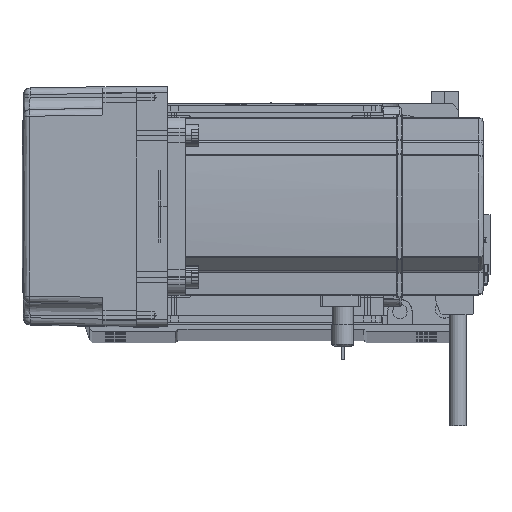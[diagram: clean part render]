
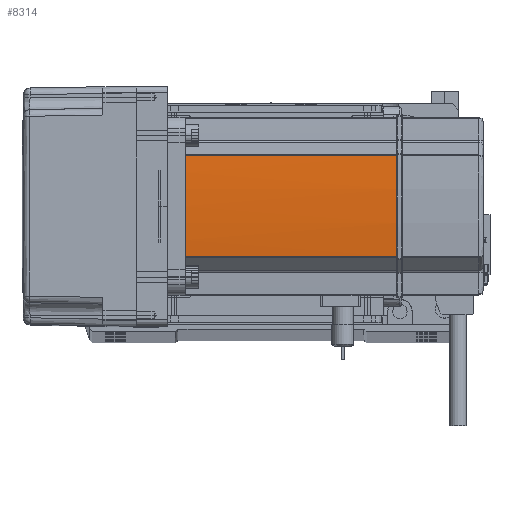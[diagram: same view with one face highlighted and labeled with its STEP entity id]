
A CAD part, top view. The second image highlights one B-rep face of the part: STEP entity #8314.
In plain terms, the highlighted cylindrical face has radius 270 mm (diameter 540 mm), a partial arc.
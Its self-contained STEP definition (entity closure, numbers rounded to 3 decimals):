
#242 = VERTEX_POINT ( 'NONE', #21132 ) ;
#2580 = CARTESIAN_POINT ( 'NONE',  ( 40., 0.127, 134. ) ) ;
#2734 = LINE ( 'NONE', #14844, #39289 ) ;
#5381 = EDGE_CURVE ( 'NONE', #242, #29914, #19218, .T. ) ;
#6447 = FACE_OUTER_BOUND ( 'NONE', #61672, .T. ) ;
#8314 = ADVANCED_FACE ( 'NONE', ( #6447 ), #10408, .T. ) ;
#10408 = CYLINDRICAL_SURFACE ( 'NONE', #26468, 270. ) ;
#11357 = VERTEX_POINT ( 'NONE', #44895 ) ;
#12797 = CARTESIAN_POINT ( 'NONE',  ( 39.042, -22.724, 134. ) ) ;
#14529 = VECTOR ( 'NONE', #19651, 1000. ) ;
#14844 = CARTESIAN_POINT ( 'NONE',  ( 39.042, 22.724, 58. ) ) ;
#15363 = EDGE_CURVE ( 'NONE', #32868, #58160, #65090, .T. ) ;
#16256 = CARTESIAN_POINT ( 'NONE',  ( -230., 0., 58. ) ) ;
#16345 = DIRECTION ( 'NONE',  ( 0., 0., -1. ) ) ;
#16938 = ORIENTED_EDGE ( 'NONE', *, *, #15363, .F. ) ;
#17118 = DIRECTION ( 'NONE',  ( -1., 0., 0. ) ) ;
#17432 = CIRCLE ( 'NONE', #64638, 270. ) ;
#18415 = EDGE_CURVE ( 'NONE', #32868, #242, #2734, .T. ) ;
#19218 = CIRCLE ( 'NONE', #63809, 270. ) ;
#19651 = DIRECTION ( 'NONE',  ( 0., 0., -1. ) ) ;
#19664 = EDGE_CURVE ( 'NONE', #11357, #29914, #28808, .T. ) ;
#20585 = ORIENTED_EDGE ( 'NONE', *, *, #19664, .F. ) ;
#21132 = CARTESIAN_POINT ( 'NONE',  ( 39.042, 22.724, 134. ) ) ;
#22496 = ORIENTED_EDGE ( 'NONE', *, *, #5381, .T. ) ;
#23427 = EDGE_CURVE ( 'NONE', #61011, #58160, #27129, .T. ) ;
#26468 = AXIS2_PLACEMENT_3D ( 'NONE', #16256, #32431, #17118 ) ;
#27129 = LINE ( 'NONE', #34271, #14529 ) ;
#28808 = B_SPLINE_CURVE_WITH_KNOTS ( 'NONE', 3,
 ( #57378, #62441, #57809, #31936 ),
 .UNSPECIFIED., .F., .F.,
 ( 4, 4 ),
 ( 0., 1. ),
 .UNSPECIFIED. ) ;
#28846 = CARTESIAN_POINT ( 'NONE',  ( 39.042, -22.724, 39. ) ) ;
#28927 = ORIENTED_EDGE ( 'NONE', *, *, #23427, .T. ) ;
#29914 = VERTEX_POINT ( 'NONE', #2580 ) ;
#31537 = AXIS2_PLACEMENT_3D ( 'NONE', #62382, #16345, #51945 ) ;
#31936 = CARTESIAN_POINT ( 'NONE',  ( 40., 0.127, 134. ) ) ;
#32327 = CARTESIAN_POINT ( 'NONE',  ( -230., 0., 134. ) ) ;
#32431 = DIRECTION ( 'NONE',  ( 0., 0., -1. ) ) ;
#32868 = VERTEX_POINT ( 'NONE', #34843 ) ;
#34271 = CARTESIAN_POINT ( 'NONE',  ( 39.042, -22.724, 58. ) ) ;
#34843 = CARTESIAN_POINT ( 'NONE',  ( 39.042, 22.724, 39. ) ) ;
#39258 = CARTESIAN_POINT ( 'NONE',  ( -230., 0., 134. ) ) ;
#39289 = VECTOR ( 'NONE', #40348, 1000. ) ;
#40348 = DIRECTION ( 'NONE',  ( 0., 0., 1. ) ) ;
#40478 = ORIENTED_EDGE ( 'NONE', *, *, #61878, .T. ) ;
#42333 = DIRECTION ( 'NONE',  ( -1., 0., 0. ) ) ;
#44606 = DIRECTION ( 'NONE',  ( 0., 0., -1. ) ) ;
#44895 = CARTESIAN_POINT ( 'NONE',  ( 40., -0.127, 134. ) ) ;
#45265 = DIRECTION ( 'NONE',  ( -1., 0., 0. ) ) ;
#47270 = DIRECTION ( 'NONE',  ( 0., 0., -1. ) ) ;
#51945 = DIRECTION ( 'NONE',  ( -1., 0., 0. ) ) ;
#57378 = CARTESIAN_POINT ( 'NONE',  ( 40., -0.127, 134. ) ) ;
#57480 = ORIENTED_EDGE ( 'NONE', *, *, #18415, .T. ) ;
#57809 = CARTESIAN_POINT ( 'NONE',  ( 40., 0.042, 134. ) ) ;
#58160 = VERTEX_POINT ( 'NONE', #28846 ) ;
#61011 = VERTEX_POINT ( 'NONE', #12797 ) ;
#61672 = EDGE_LOOP ( 'NONE', ( #28927, #16938, #57480, #22496, #20585, #40478 ) ) ;
#61878 = EDGE_CURVE ( 'NONE', #11357, #61011, #17432, .T. ) ;
#62382 = CARTESIAN_POINT ( 'NONE',  ( -230., 0., 39. ) ) ;
#62441 = CARTESIAN_POINT ( 'NONE',  ( 40., -0.042, 134. ) ) ;
#63809 = AXIS2_PLACEMENT_3D ( 'NONE', #32327, #47270, #42333 ) ;
#64638 = AXIS2_PLACEMENT_3D ( 'NONE', #39258, #44606, #45265 ) ;
#65090 = CIRCLE ( 'NONE', #31537, 270. ) ;
